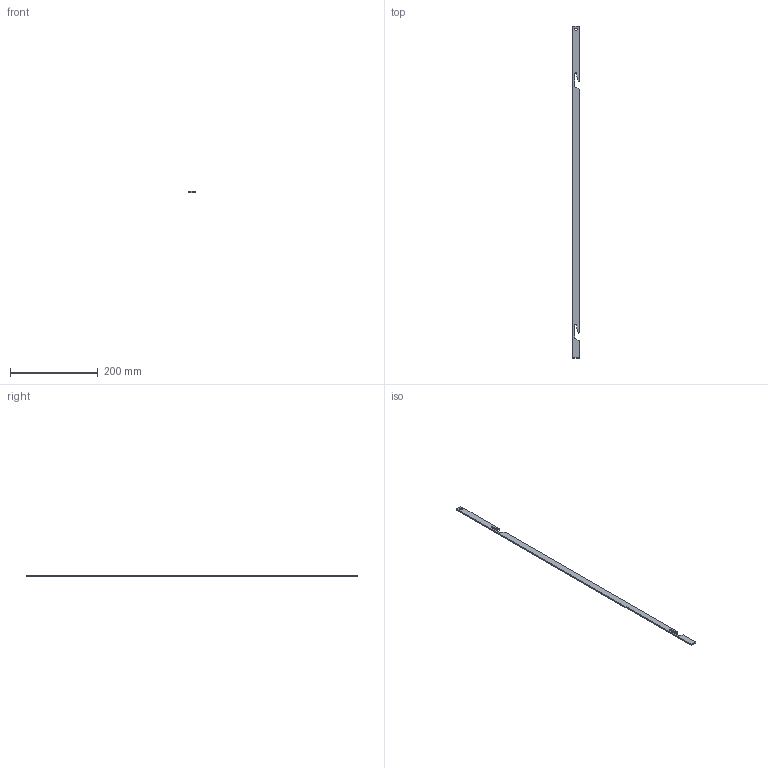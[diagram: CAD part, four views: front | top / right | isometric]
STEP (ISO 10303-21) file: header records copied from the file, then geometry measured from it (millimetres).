
FILE_DESCRIPTION (( 'STEP AP214' ), '1' );
FILE_NAME ('P490-751.STEP', '2016-09-08T08:20:49', ( '' ), ( '' ), 'SwSTEP 2.0', 'SolidWorks 2015', '' );
FILE_SCHEMA (( 'AUTOMOTIVE_DESIGN' ));
Length unit declared in the file: millimetre
Products named in the file (1): P490-751
Bounding box: 14 x 758.5 x 3 mm (x, y, z)
Volume: 30330.2 mm3; surface area: 25205.7 mm2
Topology: 1 solids, 1 shells, 22 faces, 60 edges, 40 vertices
Faces by surface type: plane 12, cylinder 10
Entity records: 742 total; most frequent: DIRECTION 126, CARTESIAN_POINT 123, ORIENTED_EDGE 120, EDGE_CURVE 60, AXIS2_PLACEMENT_3D 43, LINE 40, VECTOR 40, VERTEX_POINT 40
